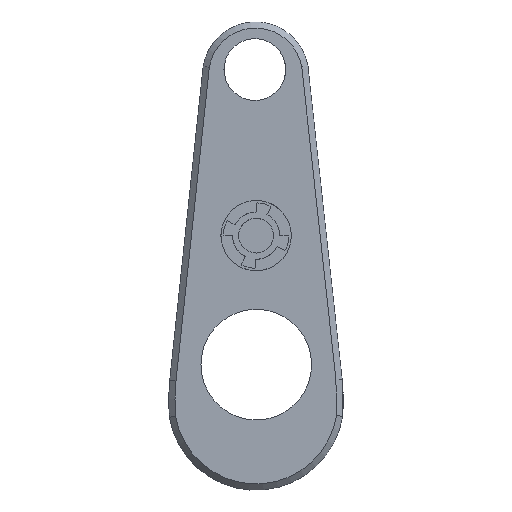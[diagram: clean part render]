
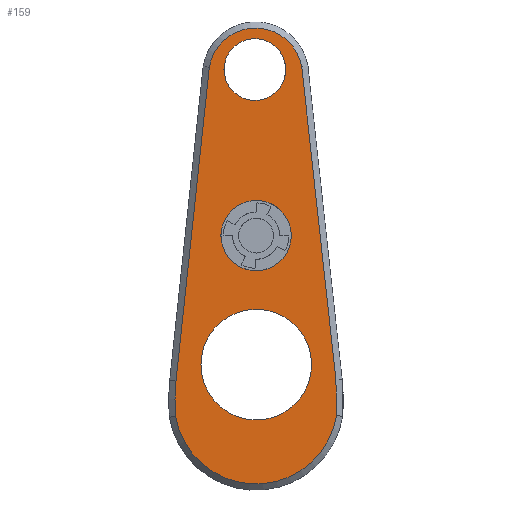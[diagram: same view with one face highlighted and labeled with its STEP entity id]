
A CAD part, top view. The second image highlights one B-rep face of the part: STEP entity #159.
In plain terms, the highlighted planar face has unit normal (0, 0, 1).
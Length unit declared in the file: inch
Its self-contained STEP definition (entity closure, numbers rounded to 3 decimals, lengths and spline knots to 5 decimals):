
#46=PLANE('',#1060);
#132=B_SPLINE_CURVE_WITH_KNOTS('',3,(#1608,#1609,#1610,#1611,#1612,#1613),
 .UNSPECIFIED.,.F.,.F.,(4,2,4),(0.,0.5,1.),.UNSPECIFIED.);
#133=B_SPLINE_CURVE_WITH_KNOTS('',3,(#1622,#1623,#1624,#1625,#1626,#1627,
#1628,#1629,#1630),.UNSPECIFIED.,.F.,.F.,(4,1,2,2,4),(0.,0.25,0.375,0.5,
1.),.UNSPECIFIED.);
#159=ADVANCED_FACE('',(#386,#387,#388,#389),#46,.F.);
#241=LINE('',#1616,#320);
#242=LINE('',#1620,#321);
#320=VECTOR('',#1192,1.);
#321=VECTOR('',#1195,1.);
#386=FACE_BOUND('',#426,.T.);
#387=FACE_BOUND('',#427,.T.);
#388=FACE_BOUND('',#428,.T.);
#389=FACE_BOUND('',#429,.T.);
#426=EDGE_LOOP('',(#542));
#427=EDGE_LOOP('',(#543));
#428=EDGE_LOOP('',(#544));
#429=EDGE_LOOP('',(#545,#546,#547,#548,#549,#550));
#542=ORIENTED_EDGE('',*,*,#904,.F.);
#543=ORIENTED_EDGE('',*,*,#886,.F.);
#544=ORIENTED_EDGE('',*,*,#905,.F.);
#545=ORIENTED_EDGE('',*,*,#906,.T.);
#546=ORIENTED_EDGE('',*,*,#907,.T.);
#547=ORIENTED_EDGE('',*,*,#908,.T.);
#548=ORIENTED_EDGE('',*,*,#909,.T.);
#549=ORIENTED_EDGE('',*,*,#910,.T.);
#550=ORIENTED_EDGE('',*,*,#911,.T.);
#793=VERTEX_POINT('',#1489);
#804=VERTEX_POINT('',#1605);
#805=VERTEX_POINT('',#1607);
#806=VERTEX_POINT('',#1614);
#807=VERTEX_POINT('',#1615);
#808=VERTEX_POINT('',#1617);
#809=VERTEX_POINT('',#1619);
#810=VERTEX_POINT('',#1621);
#811=VERTEX_POINT('',#1631);
#886=EDGE_CURVE('',#793,#793,#1011,.T.);
#904=EDGE_CURVE('',#804,#804,#1014,.T.);
#905=EDGE_CURVE('',#805,#805,#1015,.T.);
#906=EDGE_CURVE('',#806,#807,#132,.T.);
#907=EDGE_CURVE('',#807,#808,#241,.T.);
#908=EDGE_CURVE('',#808,#809,#1016,.T.);
#909=EDGE_CURVE('',#809,#810,#242,.T.);
#910=EDGE_CURVE('',#810,#811,#133,.T.);
#911=EDGE_CURVE('',#811,#806,#1017,.T.);
#1011=CIRCLE('',#1047,0.4772);
#1014=CIRCLE('',#1056,0.54272);
#1015=CIRCLE('',#1057,0.85472);
#1016=CIRCLE('',#1058,0.72368);
#1017=CIRCLE('',#1059,1.26023);
#1047=AXIS2_PLACEMENT_3D('',#1488,#1160,#1161);
#1056=AXIS2_PLACEMENT_3D('',#1604,#1188,#1189);
#1057=AXIS2_PLACEMENT_3D('',#1606,#1190,#1191);
#1058=AXIS2_PLACEMENT_3D('',#1618,#1193,#1194);
#1059=AXIS2_PLACEMENT_3D('',#1632,#1196,#1197);
#1060=AXIS2_PLACEMENT_3D('',#1633,#1198,#1199);
#1160=DIRECTION('',(0.,0.,1.));
#1161=DIRECTION('',(1.,0.,0.));
#1188=DIRECTION('',(0.,0.,1.));
#1189=DIRECTION('',(-1.,0.,0.));
#1190=DIRECTION('',(0.,0.,1.));
#1191=DIRECTION('',(1.,0.,0.));
#1192=DIRECTION('',(-0.109,0.994,0.));
#1193=DIRECTION('',(0.,0.,1.));
#1194=DIRECTION('',(-1.,0.,0.));
#1195=DIRECTION('',(-0.106,-0.994,0.));
#1196=DIRECTION('',(0.,0.,1.));
#1197=DIRECTION('',(-1.,0.,0.));
#1198=DIRECTION('',(0.,0.,-1.));
#1199=DIRECTION('',(-1.,0.,0.));
#1488=CARTESIAN_POINT('',(-0.02094,4.55693,0.48169));
#1489=CARTESIAN_POINT('',(0.45626,4.55693,0.48169));
#1604=CARTESIAN_POINT('',(-0.00201,1.99134,0.48169));
#1605=CARTESIAN_POINT('',(-0.54472,1.99134,0.48169));
#1606=CARTESIAN_POINT('',(0.,0.,0.48169));
#1607=CARTESIAN_POINT('',(0.85472,0.,0.48169));
#1608=CARTESIAN_POINT('',(1.23948,-0.78674,0.48169));
#1609=CARTESIAN_POINT('',(1.24605,-0.68715,0.48169));
#1610=CARTESIAN_POINT('',(1.24844,-0.59394,0.48169));
#1611=CARTESIAN_POINT('',(1.24497,-0.42695,0.48169));
#1612=CARTESIAN_POINT('',(1.23944,-0.33441,0.48169));
#1613=CARTESIAN_POINT('',(1.23012,-0.23283,0.48169));
#1614=CARTESIAN_POINT('',(1.23948,-0.78674,0.48169));
#1615=CARTESIAN_POINT('',(1.23013,-0.23283,0.48169));
#1616=CARTESIAN_POINT('',(1.23108,-0.24147,0.48169));
#1617=CARTESIAN_POINT('',(0.70227,4.59803,0.48169));
#1618=CARTESIAN_POINT('',(-0.01064,4.47361,0.48169));
#1619=CARTESIAN_POINT('',(-0.72487,4.59017,0.48169));
#1620=CARTESIAN_POINT('',(-1.26967,-0.53233,0.48169));
#1621=CARTESIAN_POINT('',(-1.23897,-0.24363,0.48169));
#1622=CARTESIAN_POINT('',(-1.23897,-0.24363,0.48169));
#1623=CARTESIAN_POINT('',(-1.24367,-0.29842,0.48169));
#1624=CARTESIAN_POINT('',(-1.2492,-0.37437,0.48169));
#1625=CARTESIAN_POINT('',(-1.25242,-0.44097,0.48169));
#1626=CARTESIAN_POINT('',(-1.25406,-0.48329,0.48169));
#1627=CARTESIAN_POINT('',(-1.25459,-0.5013,0.48169));
#1628=CARTESIAN_POINT('',(-1.25631,-0.60722,0.48169));
#1629=CARTESIAN_POINT('',(-1.25322,-0.69968,0.48169));
#1630=CARTESIAN_POINT('',(-1.24565,-0.79986,0.48169));
#1631=CARTESIAN_POINT('',(-1.24565,-0.79986,0.48169));
#1632=CARTESIAN_POINT('',(-0.00419,-0.58313,0.48169));
#1633=CARTESIAN_POINT('',(-1.35131,-0.52365,0.48169));
